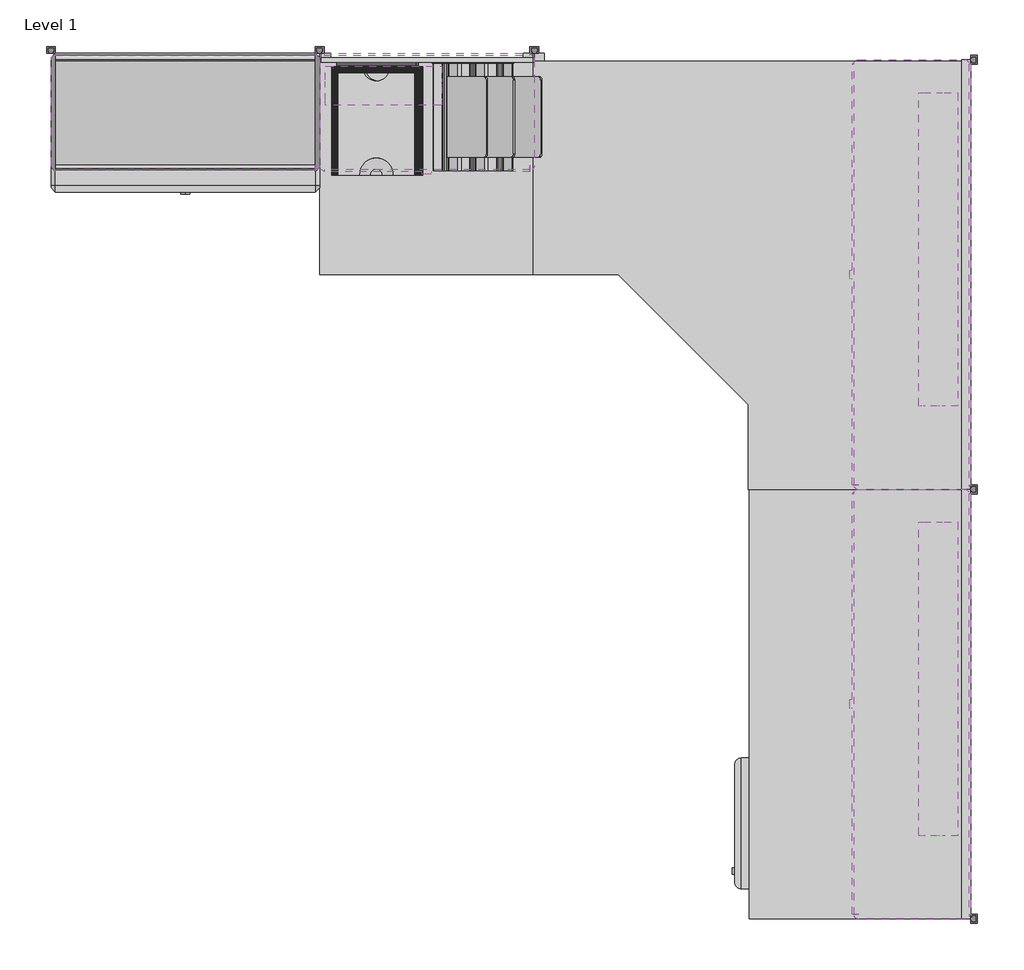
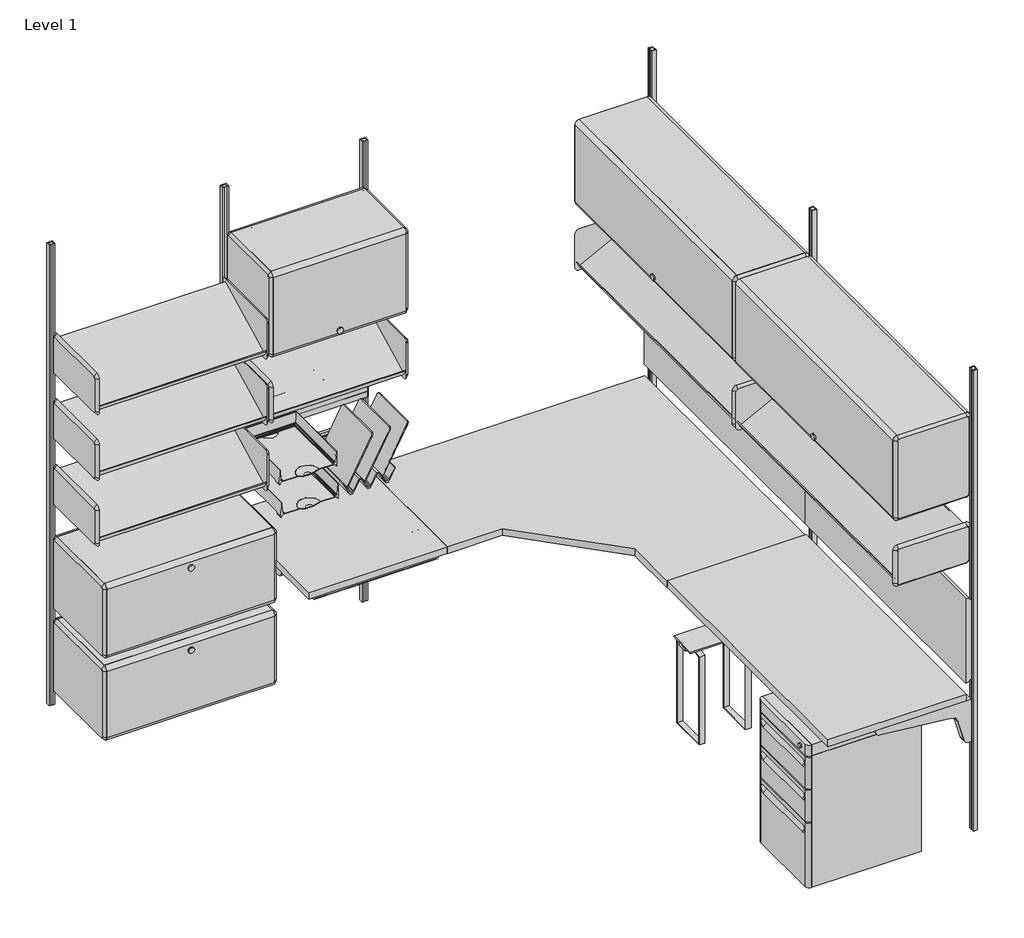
# One storey, incomplete: 30 furniture elements, 3 light fixtures.
"""IFC4 building model written with IfcOpenShell, lengths in millimetres."""

from ifc_helpers import new_model, si_unit, origin, place, context, project, spatial, transform, mapped, element, save
from components import furniture_7da167ec, furniture_5639b6dc, furniture_17bfd149, furniture_cb78dd66, furniture_439dfb7c, furniture_33cd207f, furniture_7d92ce93, furniture_043fa3d8, furniture_d3ea2044, furniture_083a197f, furniture_db9437f5, furniture_d4c6b201, furniture_e2b42103, furniture_fea97cc0, furniture_03e73c74, furniture_1f80d258, furniture_e3423f84, furniture_fc1e19d1, furniture_ef68f809, furniture_ea425779, vertical_72eab502, light_fixture_d29e1486, light_fixture_6c250f8a

model = new_model("IFC4")

# Units and contexts
model_context = context("Model", 3, world=origin())
ifc_project = project(units=[si_unit("LENGTHUNIT", "METRE", prefix="MILLI")], contexts=[model_context])

# Site, building, storey
site = spatial("IfcSite", under=ifc_project)
building = spatial("IfcBuilding", under=site)
storey = spatial("IfcBuildingStorey", under=building, Name="Level 1", Elevation=0.0)

# Furniture
placement = place(None, origin())
furniture_shape = furniture_7da167ec(model_context)
element("IfcFurniture", 1, ObjectType="HermanMiller_Quadrant_G5110_B-PullFreestandingPedestal : 26-1/2\"H x 20\"D x 15\"W BBF", at=placement, inside=storey, context=model_context, shape_type="MappedRepresentation", body=[
    mapped(furniture_shape, transform((2189.2514, -2205.78934, 0.0), x_axis=(0.0, -1.0, 0.0), y_axis=(1.0, 0.0, 0.0), z_axis=(0.0, 0.0, 1.0))),
])
furniture_2_shape = furniture_5639b6dc(model_context)
element("IfcFurniture", 2, ObjectType="HermanMiller_ThrivePortfolio_Y5010_PencilDrawer : 2\"H x 16\"D x 21\"W", at=placement, inside=storey, context=model_context, shape_type="MappedRepresentation", body=[
    mapped(furniture_2_shape, transform((1064.42002, -436.38978, 0.0), x_axis=(1.0, 0.0, 0.0), y_axis=(0.0, 1.0, 0.0), z_axis=(0.0, 0.0, 1.0))),
])
furniture_3_shape = furniture_17bfd149(model_context)
element("IfcFurniture", 3, ObjectType="HermanMiller_ActionOffice_A3610_ToolBar : 4\"H x 24\"W", at=placement, inside=storey, context=model_context, shape_type="MappedRepresentation", body=[
    mapped(furniture_3_shape, transform((1066.8, -31.7499996, 0.0), x_axis=(1.0, 0.0, 0.0), y_axis=(0.0, 1.0, 0.0), z_axis=(0.0, 0.0, 1.0))),
])
furniture_4_shape = furniture_cb78dd66(model_context)
element("IfcFurniture", 4, ObjectType="HermanMiller_ActionOffice_A3410_B-StyleTackboard : 16\"H x 48\"W", at=placement, inside=storey, context=model_context, shape_type="MappedRepresentation", body=[
    mapped(furniture_4_shape, transform((2597.32526, -1866.9, 0.0), x_axis=(0.0, 1.0, 0.0), y_axis=(-1.0, 0.0, 0.0), z_axis=(0.0, 0.0, 1.0))),
])
element("IfcFurniture", 5, ObjectType="HermanMiller_ActionOffice_A3410_B-StyleTackboard : 16\"H x 48\"W", at=placement, inside=storey, context=model_context, shape_type="MappedRepresentation", body=[
    mapped(furniture_4_shape, transform((2597.32526, -647.7, 0.0), x_axis=(0.0, 1.0, 0.0), y_axis=(-1.0, 0.0, 0.0), z_axis=(0.0, 0.0, 1.0))),
])
furniture_5_shape = furniture_439dfb7c(model_context)
element("IfcFurniture", 6, ObjectType="HermanMiller_ActionOffice_A3220_B-StyleStorageDisplay : Display 13\"D x 48\"W", at=placement, inside=storey, context=model_context, shape_type="MappedRepresentation", body=[
    mapped(furniture_5_shape, transform((2428.875, -1990.8420045, 0.0), x_axis=(0.0, -1.0, 0.0), y_axis=(1.0, 0.0, 0.0), z_axis=(0.0, 0.0, 1.0))),
])
element("IfcFurniture", 7, ObjectType="HermanMiller_ActionOffice_A3220_B-StyleStorageDisplay : Display 13\"D x 48\"W", at=placement, inside=storey, context=model_context, shape_type="MappedRepresentation", body=[
    mapped(furniture_5_shape, transform((2428.875, -771.6420045, 0.0), x_axis=(0.0, -1.0, 0.0), y_axis=(1.0, 0.0, 0.0), z_axis=(0.0, 0.0, 1.0))),
])
furniture_6_shape = furniture_33cd207f(model_context)
element("IfcFurniture", 8, ObjectType="HermanMiller_ActionOffice_A3352_B-StyleFlipperDoorUnit : 15 1/2\"H x 13\"D x 48\"W", at=placement, inside=storey, context=model_context, shape_type="MappedRepresentation", body=[
    mapped(furniture_6_shape, transform((2428.875, -1866.9, 0.0), x_axis=(0.0, -1.0, 0.0), y_axis=(1.0, 0.0, 0.0), z_axis=(0.0, 0.0, 1.0))),
])
element("IfcFurniture", 9, ObjectType="HermanMiller_ActionOffice_A3352_B-StyleFlipperDoorUnit : 15 1/2\"H x 13\"D x 48\"W", at=placement, inside=storey, context=model_context, shape_type="MappedRepresentation", body=[
    mapped(furniture_6_shape, transform((2428.875, -647.7, 0.0), x_axis=(0.0, -1.0, 0.0), y_axis=(1.0, 0.0, 0.0), z_axis=(0.0, 0.0, 1.0))),
])
furniture_7_shape = furniture_7d92ce93(model_context)
element("IfcFurniture", 10, ObjectType="HermanMiller_ThrivePortfolio_Y7216_PaperTray : 3\"H x 12\"D x 10\"W", at=placement, inside=storey, context=model_context, shape_type="MappedRepresentation", body=[
    mapped(furniture_7_shape, transform((922.8201, -210.6179255, 0.0), x_axis=(1.0, 0.0, 0.0), y_axis=(0.0, 1.0, 0.0), z_axis=(0.0, 0.0, 1.0))),
])
furniture_8_shape = furniture_043fa3d8(model_context)
element("IfcFurniture", 11, ObjectType="HermanMiller_ThrivePortfolio_Y7218_DiagonalTray : 8 1/2\"H x 12\"D x 13\"W", at=placement, inside=storey, context=model_context, shape_type="MappedRepresentation", body=[
    mapped(furniture_8_shape, transform((1197.414177, -198.72198, 0.0), x_axis=(1.0, 0.0, 0.0), y_axis=(0.0, 1.0, 0.0), z_axis=(0.0, 0.0, 1.0))),
])
furniture_9_shape = furniture_d3ea2044(model_context)
element("IfcFurniture", 12, ObjectType="HermanMiller_ThrivePortfolio_Y7216_PaperTray : 3\"H x 12\"D x 10\"W", at=placement, inside=storey, context=model_context, shape_type="MappedRepresentation", body=[
    mapped(furniture_9_shape, transform((929.1701, -210.6179255, 0.0), x_axis=(1.0, 0.0, 0.0), y_axis=(0.0, 1.0, 0.0), z_axis=(0.0, 0.0, 1.0))),
])
furniture_10_shape = furniture_083a197f(model_context)
element("IfcFurniture", 13, ObjectType="HermanMiller_ActionOffice_A2310_Sq-EdgeRectangularWorkSurface : 24\"D x 48\"W", at=placement, inside=storey, context=model_context, shape_type="MappedRepresentation", body=[
    mapped(furniture_10_shape, transform((2295.525, -1866.9, 0.0), x_axis=(0.0, -1.0, 0.0), y_axis=(1.0, 0.0, 0.0), z_axis=(0.0, 0.0, 1.0))),
])
furniture_11_shape = furniture_db9437f5(model_context)
element("IfcFurniture", 14, ObjectType="HermanMiller_ActionOffice_A2332_Sq-EdgeCornerWorkSurface : 24\"D x 48\"W", at=placement, inside=storey, context=model_context, shape_type="MappedRepresentation", body=[
    mapped(furniture_11_shape, transform((1822.45, -781.05, 0.0), x_axis=(0.0, -1.0, 0.0), y_axis=(1.0, 0.0, 0.0), z_axis=(0.0, 0.0, 1.0))),
])
furniture_12_shape = furniture_d4c6b201(model_context)
element("IfcFurniture", 15, ObjectType="HermanMiller_ActionOffice_A2310_Sq-EdgeRectangularWorkSurface : 24\"D x 24\"W", at=placement, inside=storey, context=model_context, shape_type="MappedRepresentation", body=[
    mapped(furniture_12_shape, transform((1066.8, -333.375, 0.0), x_axis=(1.0, 0.0, 0.0), y_axis=(0.0, 1.0, 0.0), z_axis=(0.0, 0.0, 1.0))),
])
furniture_13_shape = furniture_e2b42103(model_context)
element("IfcFurniture", 16, ObjectType="HermanMiller_ActionOffice_A3610_ToolBar : 4\"H x 24\"W", at=placement, inside=storey, context=model_context, shape_type="MappedRepresentation", body=[
    mapped(furniture_13_shape, transform((1066.8, -31.7499996, 0.0), x_axis=(1.0, 0.0, 0.0), y_axis=(0.0, 1.0, 0.0), z_axis=(0.0, 0.0, 1.0))),
])
furniture_14_shape = furniture_fea97cc0(model_context)
element("IfcFurniture", 17, ObjectType="HermanMiller_ActionOffice_A3352_B-StyleFlipperDoorUnit : 15 1/2\"H x 13\"D x 24\"W", at=placement, inside=storey, context=model_context, shape_type="MappedRepresentation", body=[
    mapped(furniture_14_shape, transform((1066.8, -200.025, 0.0), x_axis=(1.0, 0.0, 0.0), y_axis=(0.0, 1.0, 0.0), z_axis=(0.0, 0.0, 1.0))),
])
furniture_15_shape = furniture_03e73c74(model_context)
element("IfcFurniture", 18, ObjectType="HermanMiller_ActionOffice_A3220_B-StyleStorageDisplay : Display 13\"D x 24\"W", at=placement, inside=storey, context=model_context, shape_type="MappedRepresentation", body=[
    mapped(furniture_15_shape, transform((1190.7420045, -200.025, 0.0), x_axis=(1.0, 0.0, 0.0), y_axis=(0.0, 1.0, 0.0), z_axis=(0.0, 0.0, 1.0))),
])
furniture_16_shape = furniture_1f80d258(model_context)
element("IfcFurniture", 19, ObjectType="HermanMiller_ActionOffice_A3121_B-StyleSuspendedLateralFile : 16\"D x 30\"W", at=placement, inside=storey, context=model_context, shape_type="MappedRepresentation", body=[
    mapped(furniture_16_shape, transform((381.0, -228.6, 0.0), x_axis=(1.0, 0.0, 0.0), y_axis=(0.0, 1.0, 0.0), z_axis=(0.0, 0.0, 1.0))),
])
element("IfcFurniture", 20, ObjectType="HermanMiller_ActionOffice_A3121_B-StyleSuspendedLateralFile : 16\"D x 30\"W", at=placement, inside=storey, context=model_context, shape_type="MappedRepresentation", body=[
    mapped(furniture_16_shape, transform((381.0, -228.6, 381.0), x_axis=(1.0, 0.0, 0.0), y_axis=(0.0, 1.0, 0.0), z_axis=(0.0, 0.0, 1.0))),
])
furniture_17_shape = furniture_e3423f84(model_context)
element("IfcFurniture", 21, ObjectType="HermanMiller_ActionOffice_A3220_B-StyleStorageDisplay : Display 13\"D x 30\"W", at=placement, inside=storey, context=model_context, shape_type="MappedRepresentation", body=[
    mapped(furniture_17_shape, transform((504.9420045, -200.025, 0.0), x_axis=(1.0, 0.0, 0.0), y_axis=(0.0, 1.0, 0.0), z_axis=(0.0, 0.0, 1.0))),
])
furniture_18_shape = furniture_fc1e19d1(model_context)
element("IfcFurniture", 22, ObjectType="HermanMiller_ActionOffice_A3220_B-StyleStorageDisplay : Display 13\"D x 30\"W", at=placement, inside=storey, context=model_context, shape_type="MappedRepresentation", body=[
    mapped(furniture_18_shape, transform((504.9420045, -200.025, 0.0), x_axis=(1.0, 0.0, 0.0), y_axis=(0.0, 1.0, 0.0), z_axis=(0.0, 0.0, 1.0))),
])
furniture_19_shape = furniture_ef68f809(model_context)
element("IfcFurniture", 23, ObjectType="HermanMiller_ActionOffice_A3220_B-StyleStorageDisplay : Display 13\"D x 30\"W", at=placement, inside=storey, context=model_context, shape_type="MappedRepresentation", body=[
    mapped(furniture_19_shape, transform((504.9420045, -200.025, 0.0), x_axis=(1.0, 0.0, 0.0), y_axis=(0.0, 1.0, 0.0), z_axis=(0.0, 0.0, 1.0))),
])
furniture_20_shape = furniture_ea425779(model_context)
element("IfcFurniture", 24, ObjectType="HermanMiller_ActionOffice_AO213_WallStrip : 84\"H", at=placement, inside=storey, context=model_context, shape_type="MappedRepresentation", body=[
    mapped(furniture_20_shape, transform((2628.9, -2476.5, 0.0), x_axis=(0.0, -1.0, 0.0), y_axis=(1.0, 0.0, 0.0), z_axis=(0.0, 0.0, 1.0))),
])
element("IfcFurniture", 25, ObjectType="HermanMiller_ActionOffice_AO213_WallStrip : 84\"H", at=placement, inside=storey, context=model_context, shape_type="MappedRepresentation", body=[
    mapped(furniture_20_shape, transform((2628.9, -1257.3, 0.0), x_axis=(0.0, -1.0, 0.0), y_axis=(1.0, 0.0, 0.0), z_axis=(0.0, 0.0, 1.0))),
])
element("IfcFurniture", 26, ObjectType="HermanMiller_ActionOffice_AO213_WallStrip : 84\"H", at=placement, inside=storey, context=model_context, shape_type="MappedRepresentation", body=[
    mapped(furniture_20_shape, transform((2628.9, -38.1, 0.0), x_axis=(0.0, -1.0, 0.0), y_axis=(1.0, 0.0, 0.0), z_axis=(0.0, 0.0, 1.0))),
])
element("IfcFurniture", 27, ObjectType="HermanMiller_ActionOffice_AO213_WallStrip : 84\"H", at=placement, inside=storey, context=model_context, shape_type="MappedRepresentation", body=[
    mapped(furniture_20_shape, transform((1371.6, 0.0, 0.0), x_axis=(1.0, 0.0, 0.0), y_axis=(0.0, 1.0, 0.0), z_axis=(0.0, 0.0, 1.0))),
])
element("IfcFurniture", 28, ObjectType="HermanMiller_ActionOffice_AO213_WallStrip : 84\"H", at=placement, inside=storey, context=model_context, shape_type="MappedRepresentation", body=[
    mapped(furniture_20_shape, transform((762.0, 0.0, 0.0), x_axis=(1.0, 0.0, 0.0), y_axis=(0.0, 1.0, 0.0), z_axis=(0.0, 0.0, 1.0))),
])
element("IfcFurniture", 29, ObjectType="HermanMiller_ActionOffice_AO213_WallStrip : 84\"H", at=placement, inside=storey, context=model_context, shape_type="MappedRepresentation", body=[
    mapped(furniture_20_shape, transform((0.0, 0.0, 0.0), x_axis=(1.0, 0.0, 0.0), y_axis=(0.0, 1.0, 0.0), z_axis=(0.0, 0.0, 1.0))),
])
vertical_shape = vertical_72eab502(model_context)
element("IfcFurniture", 30, ObjectType="HermanMiller_ThrivePortfolio_Y7813_CPUHolder : Vertical", at=placement, inside=storey, context=model_context, shape_type="MappedRepresentation", body=[
    mapped(vertical_shape, transform((2133.6, -1348.53934, 0.0), x_axis=(0.0, 1.0, 0.0), y_axis=(-1.0, 0.0, 0.0), z_axis=(0.0, 0.0, 1.0))),
])

# Light fixtures
light_fixture_shape = light_fixture_d29e1486(model_context)
element("IfcLightFixture", 31, ObjectType="HermanMiller_SupplementalProducts_G6136_UtilityTaskLight : AO Etho Canvas 42W", at=placement, inside=storey, context=model_context, shape_type="MappedRepresentation", body=[
    mapped(light_fixture_shape, transform((2517.775, -1795.018, 0.0), x_axis=(0.0, -1.0, 0.0), y_axis=(1.0, 0.0, 0.0), z_axis=(0.0, 0.0, 1.0))),
])
element("IfcLightFixture", 32, ObjectType="HermanMiller_SupplementalProducts_G6136_UtilityTaskLight : AO Etho Canvas 42W", at=placement, inside=storey, context=model_context, shape_type="MappedRepresentation", body=[
    mapped(light_fixture_shape, transform((2517.775, -575.818, 0.0), x_axis=(0.0, -1.0, 0.0), y_axis=(1.0, 0.0, 0.0), z_axis=(0.0, 0.0, 1.0))),
])
light_fixture_2_shape = light_fixture_6c250f8a(model_context)
element("IfcLightFixture", 33, ObjectType="HermanMiller_SupplementalProducts_G6136_UtilityTaskLight : AO Etho Canvas 24W", at=placement, inside=storey, context=model_context, shape_type="MappedRepresentation", body=[
    mapped(light_fixture_2_shape, transform((943.229, -111.125, 0.0), x_axis=(1.0, 0.0, 0.0), y_axis=(0.0, 1.0, 0.0), z_axis=(0.0, 0.0, 1.0))),
])

save(model, "model.ifc")
